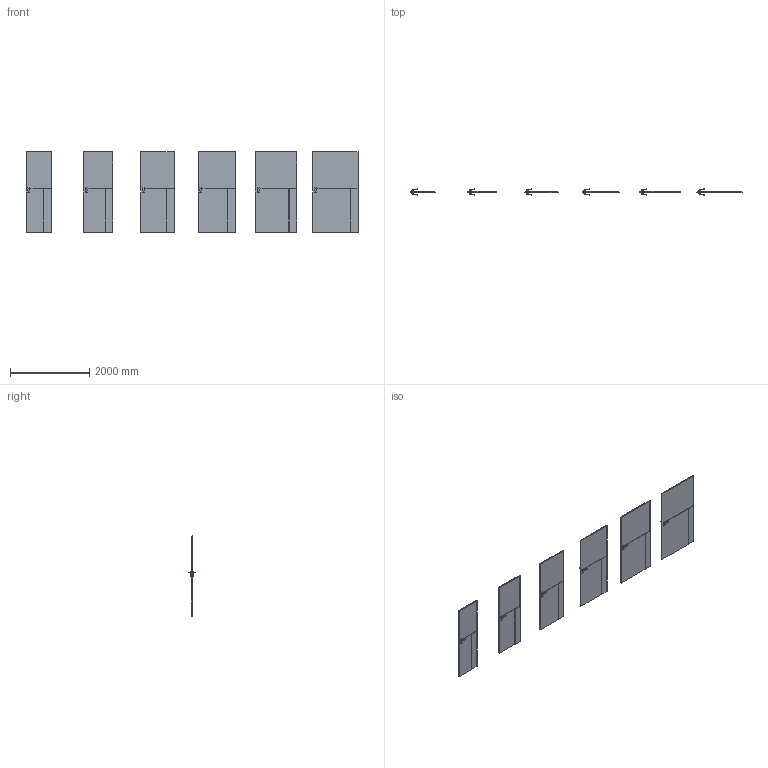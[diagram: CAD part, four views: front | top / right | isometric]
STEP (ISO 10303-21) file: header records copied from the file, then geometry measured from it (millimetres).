
FILE_DESCRIPTION(/* description */ (''),/* implementation_level */ '2;1');
FILE_NAME(/* name */ '049589_B_1-Skrzydło LINE model L.1_ polska norma _PN__ przylgowe..stp',/* time_stamp */ '2024-01-24T11:28:38+01:00',/* author */ (''),/* organization */ (''),/* preprocessor_version */ 'ST-DEVELOPER v16',/* originating_system */ 'SIEMENS PLM Software NX 11.0',/* authorisation */ '');
FILE_SCHEMA (('AUTOMOTIVE_DESIGN { 1 0 10303 214 3 1 1 1 }'));
Length unit declared in the file: millimetre
Products named in the file (1): bkni10AC1642r7e7
Bounding box: 8394 x 153.27 x 2030 mm (x, y, z)
Volume: 418580253.9 mm3; surface area: 23850178.2 mm2
Topology: 54 solids, 54 shells, 1308 faces, 3072 edges, 1752 vertices
Faces by surface type: plane 684, cylinder 264, bspline 192, sphere 168
Entity records: 42641 total; most frequent: CARTESIAN_POINT 14389, ORIENTED_EDGE 5808, DIRECTION 5498, EDGE_CURVE 2904, AXIS2_PLACEMENT_3D 1837, LINE 1824, VECTOR 1824, VERTEX_POINT 1752
